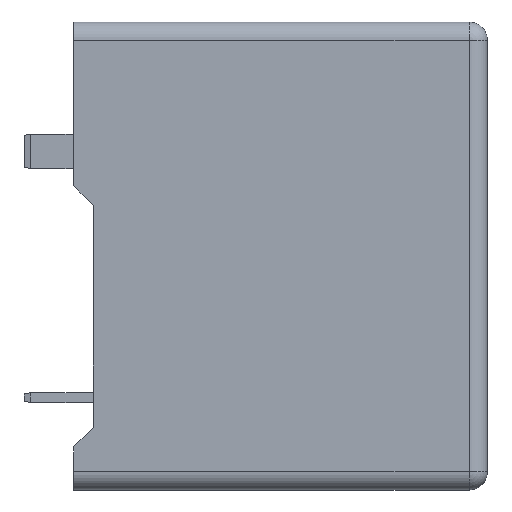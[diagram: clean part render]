
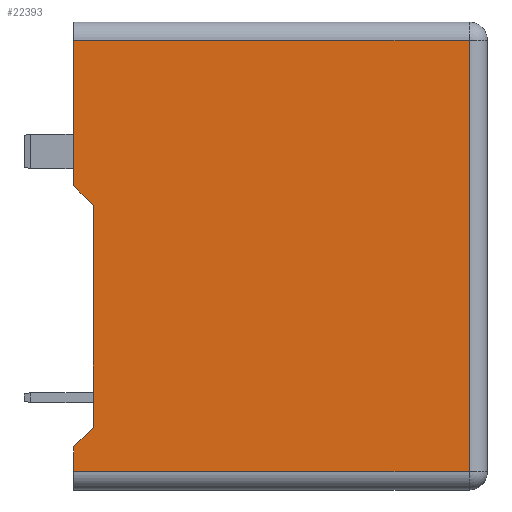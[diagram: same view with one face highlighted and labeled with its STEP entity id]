
A CAD part, front view. The second image highlights one B-rep face of the part: STEP entity #22393.
In plain terms, the highlighted planar face has unit normal (0, -1, 0).
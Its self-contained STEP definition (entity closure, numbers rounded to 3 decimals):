
#8 = CARTESIAN_POINT ( 'NONE',  ( -29.55, -14.9, -8.05 ) ) ;
#145 = EDGE_CURVE ( 'NONE', #213, #22018, #7921, .T. ) ;
#213 = VERTEX_POINT ( 'NONE', #11869 ) ;
#422 = LINE ( 'NONE', #4089, #20392 ) ;
#644 = LINE ( 'NONE', #24746, #16077 ) ;
#736 = CARTESIAN_POINT ( 'NONE',  ( -27.95, -14.9, 11.55 ) ) ;
#1077 = PLANE ( 'NONE',  #8552 ) ;
#1679 = DIRECTION ( 'NONE',  ( 0., 0., -1. ) ) ;
#2166 = VECTOR ( 'NONE', #16579, 1000. ) ;
#2282 = VERTEX_POINT ( 'NONE', #14598 ) ;
#2949 = EDGE_CURVE ( 'NONE', #8992, #14088, #21112, .T. ) ;
#3270 = VERTEX_POINT ( 'NONE', #19201 ) ;
#3545 = DIRECTION ( 'NONE',  ( 0., 0., 1. ) ) ;
#3580 = DIRECTION ( 'NONE',  ( 1., 0., 0. ) ) ;
#4089 = CARTESIAN_POINT ( 'NONE',  ( -29.55, -14.9, 24.95 ) ) ;
#5030 = CARTESIAN_POINT ( 'NONE',  ( -29.55, -14.9, 13.15 ) ) ;
#5079 = FACE_OUTER_BOUND ( 'NONE', #20165, .T. ) ;
#5144 = CARTESIAN_POINT ( 'NONE',  ( -27.95, -14.9, 26.45 ) ) ;
#5180 = ORIENTED_EDGE ( 'NONE', *, *, #11539, .T. ) ;
#5809 = VECTOR ( 'NONE', #3545, 1000. ) ;
#6038 = DIRECTION ( 'NONE',  ( 0., 0., 1. ) ) ;
#6935 = EDGE_CURVE ( 'NONE', #2282, #3270, #18492, .T. ) ;
#6979 = ORIENTED_EDGE ( 'NONE', *, *, #6935, .T. ) ;
#7544 = LINE ( 'NONE', #9016, #21697 ) ;
#7921 = LINE ( 'NONE', #13175, #5809 ) ;
#8552 = AXIS2_PLACEMENT_3D ( 'NONE', #5144, #8923, #12902 ) ;
#8923 = DIRECTION ( 'NONE',  ( 0., -1., 0. ) ) ;
#8974 = CARTESIAN_POINT ( 'NONE',  ( -27.95, -14.9, -10.05 ) ) ;
#8992 = VERTEX_POINT ( 'NONE', #19285 ) ;
#9016 = CARTESIAN_POINT ( 'NONE',  ( -29.55, -14.9, -8.05 ) ) ;
#9361 = EDGE_CURVE ( 'NONE', #20429, #22018, #7544, .T. ) ;
#10426 = ORIENTED_EDGE ( 'NONE', *, *, #145, .F. ) ;
#10572 = VERTEX_POINT ( 'NONE', #13784 ) ;
#11539 = EDGE_CURVE ( 'NONE', #10572, #2282, #17052, .T. ) ;
#11869 = CARTESIAN_POINT ( 'NONE',  ( -29.55, -14.9, -10.05 ) ) ;
#11942 = ORIENTED_EDGE ( 'NONE', *, *, #2949, .T. ) ;
#12001 = EDGE_CURVE ( 'NONE', #14088, #20429, #644, .T. ) ;
#12879 = ORIENTED_EDGE ( 'NONE', *, *, #9361, .T. ) ;
#12902 = DIRECTION ( 'NONE',  ( -1., 0., 0. ) ) ;
#13175 = CARTESIAN_POINT ( 'NONE',  ( -29.55, -14.9, -8.05 ) ) ;
#13758 = VECTOR ( 'NONE', #18365, 1000. ) ;
#13784 = CARTESIAN_POINT ( 'NONE',  ( 2.55, -14.9, -10.05 ) ) ;
#14088 = VERTEX_POINT ( 'NONE', #736 ) ;
#14539 = EDGE_CURVE ( 'NONE', #8992, #3270, #422, .T. ) ;
#14598 = CARTESIAN_POINT ( 'NONE',  ( 2.55, -14.9, 24.95 ) ) ;
#15947 = VECTOR ( 'NONE', #20229, 1000. ) ;
#16077 = VECTOR ( 'NONE', #1679, 1000. ) ;
#16579 = DIRECTION ( 'NONE',  ( -1., 0., 0. ) ) ;
#17052 = LINE ( 'NONE', #24287, #13758 ) ;
#17416 = EDGE_CURVE ( 'NONE', #213, #10572, #20565, .T. ) ;
#18237 = ORIENTED_EDGE ( 'NONE', *, *, #14539, .F. ) ;
#18365 = DIRECTION ( 'NONE',  ( 0., 0., 1. ) ) ;
#18492 = LINE ( 'NONE', #20665, #2166 ) ;
#18924 = ORIENTED_EDGE ( 'NONE', *, *, #12001, .T. ) ;
#19201 = CARTESIAN_POINT ( 'NONE',  ( -29.55, -14.9, 24.95 ) ) ;
#19285 = CARTESIAN_POINT ( 'NONE',  ( -29.55, -14.9, 13.15 ) ) ;
#19950 = VECTOR ( 'NONE', #3580, 1000. ) ;
#20165 = EDGE_LOOP ( 'NONE', ( #24555, #5180, #6979, #18237, #11942, #18924, #12879, #10426 ) ) ;
#20229 = DIRECTION ( 'NONE',  ( 0.707, 0., -0.707 ) ) ;
#20392 = VECTOR ( 'NONE', #6038, 1000. ) ;
#20429 = VERTEX_POINT ( 'NONE', #23058 ) ;
#20565 = LINE ( 'NONE', #8974, #19950 ) ;
#20665 = CARTESIAN_POINT ( 'NONE',  ( -27.95, -14.9, 24.95 ) ) ;
#20782 = DIRECTION ( 'NONE',  ( -0.707, 0., -0.707 ) ) ;
#21112 = LINE ( 'NONE', #5030, #15947 ) ;
#21697 = VECTOR ( 'NONE', #20782, 1000. ) ;
#22018 = VERTEX_POINT ( 'NONE', #8 ) ;
#22393 = ADVANCED_FACE ( 'NONE', ( #5079 ), #1077, .T. ) ;
#23058 = CARTESIAN_POINT ( 'NONE',  ( -27.95, -14.9, -6.45 ) ) ;
#24287 = CARTESIAN_POINT ( 'NONE',  ( 2.55, -14.9, 26.45 ) ) ;
#24555 = ORIENTED_EDGE ( 'NONE', *, *, #17416, .T. ) ;
#24746 = CARTESIAN_POINT ( 'NONE',  ( -27.95, -14.9, 26.45 ) ) ;
